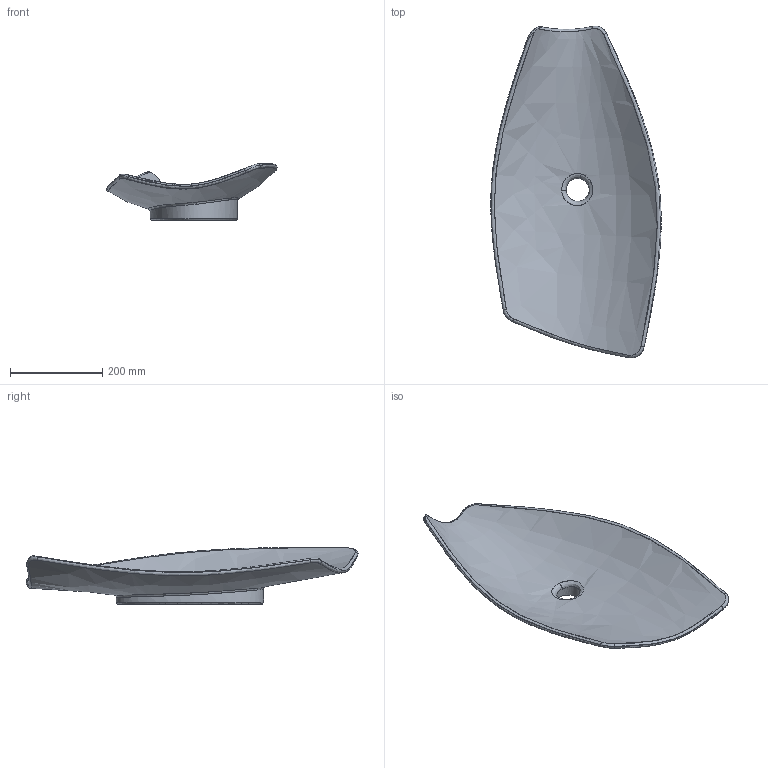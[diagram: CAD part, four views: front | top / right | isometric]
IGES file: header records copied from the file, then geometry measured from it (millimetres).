
Start section: C
Global section: file name: Kong 70.igs; native system:  By UGS Corp.; preprocessor: XPlus GENERIC/IGES 3.0; author: Author; organization: Title; date: 20120323.141800; units: millimetre
Bounding box: 370.01 x 721 x 123.47 mm (x, y, z)
Surface area: 512762.1 mm2 (no closed solid volume)
Topology: 0 solids, 0 shells, 31 faces, 148 edges, 148 vertices
Faces by surface type: bspline 31
